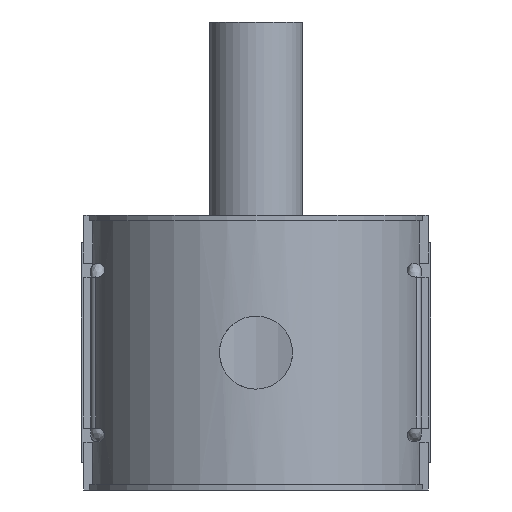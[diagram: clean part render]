
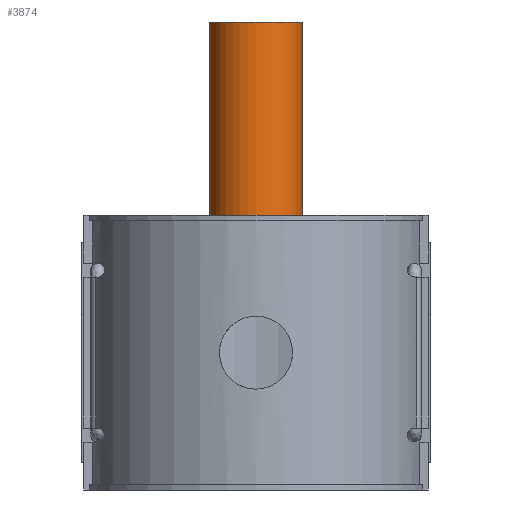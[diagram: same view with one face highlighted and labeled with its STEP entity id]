
A CAD part, front view. The second image highlights one B-rep face of the part: STEP entity #3874.
In plain terms, the highlighted cylindrical face has radius 20 mm (diameter 40 mm), a full revolution.
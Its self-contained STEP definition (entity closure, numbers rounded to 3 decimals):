
#336=CIRCLE('',#4235,20.);
#337=CIRCLE('',#4236,20.);
#338=CIRCLE('',#4237,20.);
#339=CIRCLE('',#4238,20.);
#579=FACE_OUTER_BOUND('',#822,.T.);
#822=EDGE_LOOP('',(#3588,#3589,#3590,#3591,#3592,#3593));
#1143=LINE('',#8208,#1460);
#1460=VECTOR('',#5237,20.);
#1911=VERTEX_POINT('',#8203);
#1912=VERTEX_POINT('',#8204);
#1913=VERTEX_POINT('',#8207);
#1914=VERTEX_POINT('',#8209);
#2472=EDGE_CURVE('',#1911,#1912,#336,.T.);
#2473=EDGE_CURVE('',#1912,#1911,#337,.T.);
#2474=EDGE_CURVE('',#1912,#1913,#1143,.T.);
#2475=EDGE_CURVE('',#1913,#1914,#338,.T.);
#2476=EDGE_CURVE('',#1914,#1913,#339,.T.);
#3588=ORIENTED_EDGE('',*,*,#2472,.F.);
#3589=ORIENTED_EDGE('',*,*,#2473,.F.);
#3590=ORIENTED_EDGE('',*,*,#2474,.T.);
#3591=ORIENTED_EDGE('',*,*,#2475,.T.);
#3592=ORIENTED_EDGE('',*,*,#2476,.T.);
#3593=ORIENTED_EDGE('',*,*,#2474,.F.);
#3658=CYLINDRICAL_SURFACE('',#4234,20.);
#3874=ADVANCED_FACE('',(#579),#3658,.T.);
#4234=AXIS2_PLACEMENT_3D('',#8202,#5231,#5232);
#4235=AXIS2_PLACEMENT_3D('',#8205,#5233,#5234);
#4236=AXIS2_PLACEMENT_3D('',#8206,#5235,#5236);
#4237=AXIS2_PLACEMENT_3D('',#8210,#5238,#5239);
#4238=AXIS2_PLACEMENT_3D('',#8211,#5240,#5241);
#5231=DIRECTION('center_axis',(0.,0.,1.));
#5232=DIRECTION('ref_axis',(0.,-1.,0.));
#5233=DIRECTION('center_axis',(0.,0.,1.));
#5234=DIRECTION('ref_axis',(1.,0.,0.));
#5235=DIRECTION('center_axis',(0.,0.,1.));
#5236=DIRECTION('ref_axis',(1.,0.,0.));
#5237=DIRECTION('',(0.,0.,-1.));
#5238=DIRECTION('center_axis',(0.,0.,1.));
#5239=DIRECTION('ref_axis',(1.,0.,0.));
#5240=DIRECTION('center_axis',(0.,0.,1.));
#5241=DIRECTION('ref_axis',(1.,0.,0.));
#8202=CARTESIAN_POINT('Origin',(0.,115.,71.));
#8203=CARTESIAN_POINT('',(0.,95.,142.));
#8204=CARTESIAN_POINT('',(0.,135.,142.));
#8205=CARTESIAN_POINT('Origin',(0.,115.,142.));
#8206=CARTESIAN_POINT('Origin',(0.,115.,142.));
#8207=CARTESIAN_POINT('',(0.,135.,0.));
#8208=CARTESIAN_POINT('',(0.,135.,71.));
#8209=CARTESIAN_POINT('',(0.,95.,0.));
#8210=CARTESIAN_POINT('Origin',(0.,115.,0.));
#8211=CARTESIAN_POINT('Origin',(0.,115.,0.));
